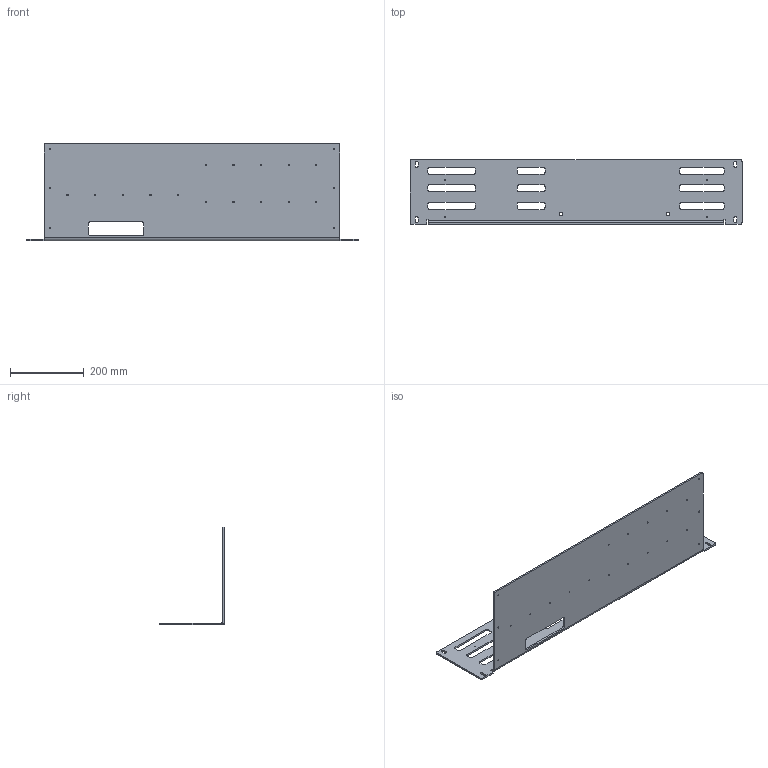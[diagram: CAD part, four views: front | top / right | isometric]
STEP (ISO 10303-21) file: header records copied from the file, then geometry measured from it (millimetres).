
FILE_DESCRIPTION(/* description */ (''),/* implementation_level */ '2;1');
FILE_NAME(/* name */ 'Upper Electrical Panel.step',/* time_stamp */ '2026-05-15T13:36:15-07:00',/* author */ (''),/* organization */ (''),/* preprocessor_version */ 'ST-DEVELOPER v20.1',/* originating_system */ 'Autodesk Translation Framework v15.8.0.0',/* authorisation */ '');
FILE_SCHEMA (('AUTOMOTIVE_DESIGN { 1 0 10303 214 3 1 1 }'));
Length unit declared in the file: millimetre
Products named in the file (1): Upper Electrical Panel
Bounding box: 900 x 175 x 265 mm (x, y, z)
Volume: 1607458.8 mm3; surface area: 702579.1 mm2
Topology: 1 solids, 1 shells, 151 faces, 439 edges, 290 vertices
Faces by surface type: cylinder 83, plane 68
Full cylindrical faces by diameter (mm): 3.332 x25, 9 x2
Entity records: 5232 total; most frequent: DIRECTION 909, CARTESIAN_POINT 881, ORIENTED_EDGE 878, EDGE_CURVE 439, AXIS2_PLACEMENT_3D 318, VERTEX_POINT 290, LINE 273, VECTOR 273
